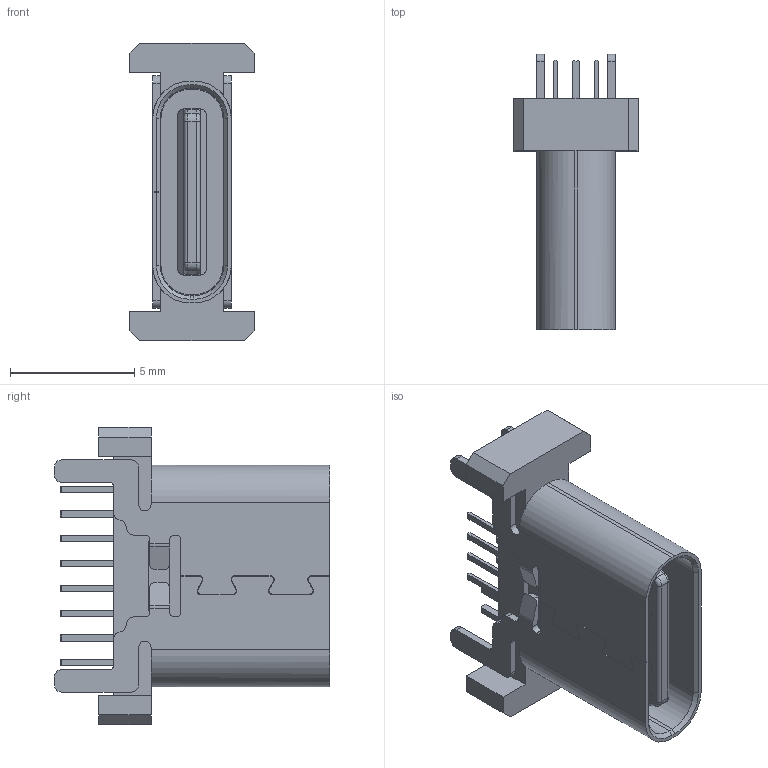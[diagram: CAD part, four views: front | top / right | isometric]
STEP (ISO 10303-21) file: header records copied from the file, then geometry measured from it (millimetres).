
FILE_DESCRIPTION (( 'STEP AP203' ), '1' );
FILE_NAME ('GT-USB-7038A.STEP', '2023-09-19T06:22:48', ( '' ), ( '' ), 'SwSTEP 2.0', 'SolidWorks 2023', '' );
FILE_SCHEMA (( 'CONFIG_CONTROL_DESIGN' ));
Length unit declared in the file: millimetre
Products named in the file (1): GT-USB-7038A
Bounding box: 5 x 11.1 x 12 mm (x, y, z)
Volume: 180 mm3; surface area: 639 mm2
Topology: 1 solids, 1 shells, 422 faces, 1201 edges, 786 vertices
Faces by surface type: plane 298, cylinder 112, bspline 4, torus 4, cone 4
Entity records: 13828 total; most frequent: CARTESIAN_POINT 2572, ORIENTED_EDGE 2402, DIRECTION 2263, EDGE_CURVE 1201, VECTOR 953, LINE 953, VERTEX_POINT 786, AXIS2_PLACEMENT_3D 655
